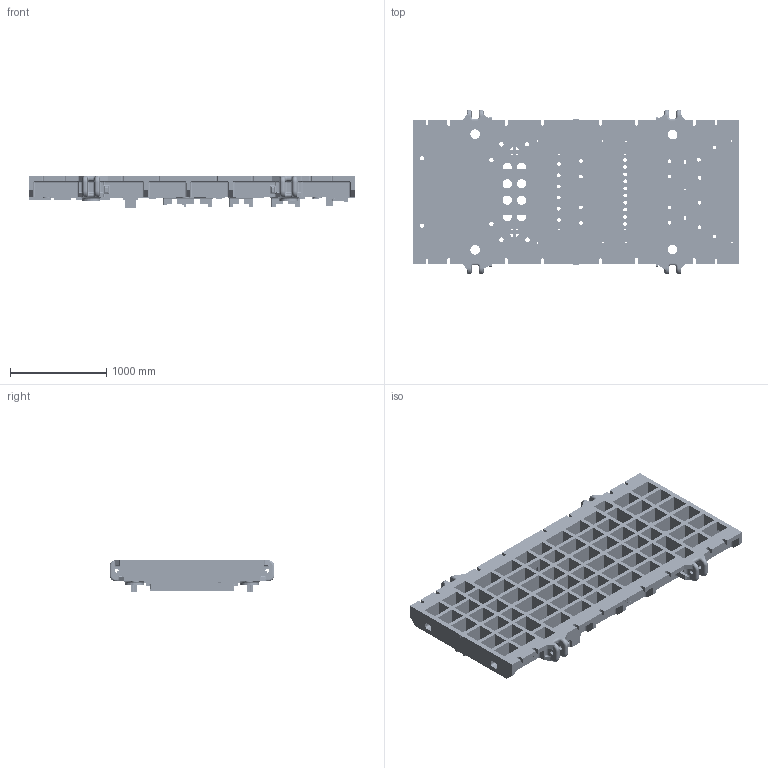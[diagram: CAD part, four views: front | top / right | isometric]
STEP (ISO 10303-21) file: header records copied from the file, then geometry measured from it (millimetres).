
FILE_DESCRIPTION(/* description */ (''),/* implementation_level */ '2;1');
FILE_NAME(/* name */ '200__Odlew_gorny.stp',/* time_stamp */ '2022-03-01T08:48:03+01:00',/* author */ (''),/* organization */ (''),/* preprocessor_version */ 'ST-DEVELOPER v16',/* originating_system */ 'SIEMENS PLM Software NX 10.0',/* authorisation */ '');
FILE_SCHEMA (('AUTOMOTIVE_DESIGN { 1 0 10303 214 3 1 1 1 }'));
Products named in the file (1): 200__Odlew_gorny
Bounding box: 3386 x 1710 x 330 mm (x, y, z)
Volume: 602389425.1 mm3; surface area: 26503640.5 mm2
Topology: 9 solids, 9 shells, 9146 faces, 27484 edges, 18503 vertices
Faces by surface type: plane 6791, cylinder 1393, cone 806, torus 68, sphere 64, bspline 24
Full cylindrical faces by diameter (mm): 4.917 x234, 6 x30, 6.647 x198, 8 x4, 8.376 x200, 10 x34, 10.106 x46, 12 x1, 13.835 x26, 18 x41, 39 x43, 40 x8, 42 x8, 46 x8, 50 x8, 51 x24, 52 x16, 86 x6, 96 x10, 100 x4, 190 x4
Entity records: 343150 total; most frequent: CARTESIAN_POINT 51771, DIRECTION 46817, ORIENTED_EDGE 45894, EDGE_CURVE 22947, LINE 19971, VECTOR 19971, VERTEX_POINT 16599, AXIS2_PLACEMENT_3D 13423
